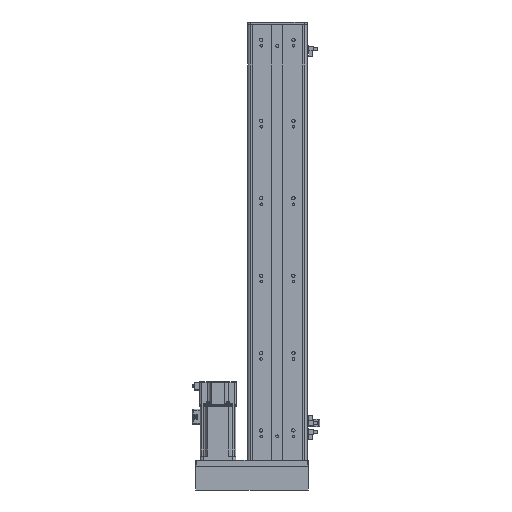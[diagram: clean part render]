
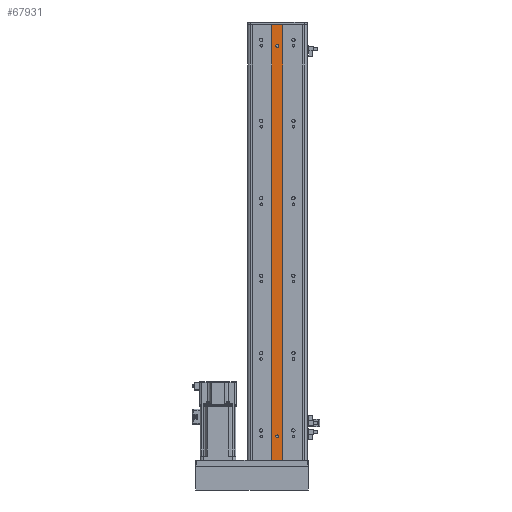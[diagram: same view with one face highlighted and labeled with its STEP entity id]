
A CAD part, front view. The second image highlights one B-rep face of the part: STEP entity #67931.
In plain terms, the highlighted planar face has unit normal (0, -1, 0).
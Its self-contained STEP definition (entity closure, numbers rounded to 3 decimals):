
#29 = EDGE_CURVE ( 'NONE', #30890, #7615, #59088, .T. ) ;
#110 = FACE_BOUND ( 'NONE', #10983, .T. ) ;
#664 = DIRECTION ( 'NONE',  ( 0., 0., 1. ) ) ;
#1103 = CIRCLE ( 'NONE', #21791, 2.5 ) ;
#1115 = EDGE_CURVE ( 'NONE', #44304, #39621, #1460, .T. ) ;
#1460 = CIRCLE ( 'NONE', #56059, 2.5 ) ;
#1490 = CARTESIAN_POINT ( 'NONE',  ( 2.5, 1.309, 826.5 ) ) ;
#1580 = DIRECTION ( 'NONE',  ( -1., 0., 0. ) ) ;
#3102 = LINE ( 'NONE', #18892, #58257 ) ;
#3864 = EDGE_CURVE ( 'NONE', #12221, #28727, #4026, .T. ) ;
#4026 = LINE ( 'NONE', #7603, #4841 ) ;
#4841 = VECTOR ( 'NONE', #1580, 1000. ) ;
#5799 = EDGE_CURVE ( 'NONE', #39621, #30890, #25128, .T. ) ;
#5824 = DIRECTION ( 'NONE',  ( 0., 0., -1. ) ) ;
#6717 = DIRECTION ( 'NONE',  ( 0., 0., 1. ) ) ;
#7104 = CARTESIAN_POINT ( 'NONE',  ( 2.5, 1.309, 170. ) ) ;
#7603 = CARTESIAN_POINT ( 'NONE',  ( 0., 1.309, 130. ) ) ;
#7615 = VERTEX_POINT ( 'NONE', #1490 ) ;
#8108 = DIRECTION ( 'NONE',  ( 0., 1., 0. ) ) ;
#8323 = DIRECTION ( 'NONE',  ( 0., 1., 0. ) ) ;
#9391 = EDGE_CURVE ( 'NONE', #26422, #66133, #13768, .T. ) ;
#10983 = EDGE_LOOP ( 'NONE', ( #55647, #28103, #44668, #24114 ) ) ;
#12221 = VERTEX_POINT ( 'NONE', #46958 ) ;
#12236 = ORIENTED_EDGE ( 'NONE', *, *, #3864, .F. ) ;
#13768 = LINE ( 'NONE', #58982, #27922 ) ;
#14298 = CARTESIAN_POINT ( 'NONE',  ( 0., 1.309, 826.5 ) ) ;
#15575 = DIRECTION ( 'NONE',  ( 1., 0., 0. ) ) ;
#16780 = CARTESIAN_POINT ( 'NONE',  ( 0., 1.309, 170. ) ) ;
#17674 = CARTESIAN_POINT ( 'NONE',  ( -9., 1.309, 130. ) ) ;
#17728 = PLANE ( 'NONE',  #38516 ) ;
#18892 = CARTESIAN_POINT ( 'NONE',  ( -9., 1.309, 861. ) ) ;
#19199 = VERTEX_POINT ( 'NONE', #7104 ) ;
#19676 = DIRECTION ( 'NONE',  ( 0., 1., 0. ) ) ;
#21236 = ORIENTED_EDGE ( 'NONE', *, *, #24861, .T. ) ;
#21388 = ORIENTED_EDGE ( 'NONE', *, *, #9391, .F. ) ;
#21791 = AXIS2_PLACEMENT_3D ( 'NONE', #16780, #37575, #664 ) ;
#21805 = CARTESIAN_POINT ( 'NONE',  ( -9., 1.309, 861. ) ) ;
#22831 = CARTESIAN_POINT ( 'NONE',  ( 0., 1.309, 170. ) ) ;
#23129 = CARTESIAN_POINT ( 'NONE',  ( -2.5, 1.309, 826.5 ) ) ;
#24114 = ORIENTED_EDGE ( 'NONE', *, *, #1115, .T. ) ;
#24861 = EDGE_CURVE ( 'NONE', #26422, #28727, #3102, .T. ) ;
#25128 = LINE ( 'NONE', #30251, #63593 ) ;
#26183 = EDGE_CURVE ( 'NONE', #7615, #44304, #49798, .T. ) ;
#26422 = VERTEX_POINT ( 'NONE', #21805 ) ;
#27922 = VECTOR ( 'NONE', #15575, 1000. ) ;
#28103 = ORIENTED_EDGE ( 'NONE', *, *, #29, .T. ) ;
#28496 = FACE_OUTER_BOUND ( 'NONE', #60801, .T. ) ;
#28727 = VERTEX_POINT ( 'NONE', #17674 ) ;
#28893 = DIRECTION ( 'NONE',  ( 0., 0., 1. ) ) ;
#30251 = CARTESIAN_POINT ( 'NONE',  ( -2.5, 1.309, 861. ) ) ;
#30346 = DIRECTION ( 'NONE',  ( 0., 0., -1. ) ) ;
#30890 = VERTEX_POINT ( 'NONE', #23129 ) ;
#31878 = ORIENTED_EDGE ( 'NONE', *, *, #53376, .F. ) ;
#34282 = CARTESIAN_POINT ( 'NONE',  ( 0., 1.309, 861. ) ) ;
#37575 = DIRECTION ( 'NONE',  ( 0., 1., 0. ) ) ;
#38060 = DIRECTION ( 'NONE',  ( 0., 1., 0. ) ) ;
#38516 = AXIS2_PLACEMENT_3D ( 'NONE', #34282, #8108, #45529 ) ;
#38611 = CARTESIAN_POINT ( 'NONE',  ( -2.5, 1.309, 170. ) ) ;
#39621 = VERTEX_POINT ( 'NONE', #46193 ) ;
#40327 = VERTEX_POINT ( 'NONE', #38611 ) ;
#40603 = CARTESIAN_POINT ( 'NONE',  ( 0., 1.309, 825.5 ) ) ;
#44304 = VERTEX_POINT ( 'NONE', #67675 ) ;
#44376 = AXIS2_PLACEMENT_3D ( 'NONE', #22831, #38060, #6717 ) ;
#44482 = LINE ( 'NONE', #65076, #67808 ) ;
#44668 = ORIENTED_EDGE ( 'NONE', *, *, #26183, .T. ) ;
#45092 = DIRECTION ( 'NONE',  ( 0., 0., -1. ) ) ;
#45529 = DIRECTION ( 'NONE',  ( 0., 0., 1. ) ) ;
#45920 = CARTESIAN_POINT ( 'NONE',  ( 9., 1.309, 861. ) ) ;
#46193 = CARTESIAN_POINT ( 'NONE',  ( -2.5, 1.309, 825.5 ) ) ;
#46421 = ORIENTED_EDGE ( 'NONE', *, *, #65314, .T. ) ;
#46958 = CARTESIAN_POINT ( 'NONE',  ( 9., 1.309, 130. ) ) ;
#48108 = VECTOR ( 'NONE', #5824, 1000. ) ;
#49798 = LINE ( 'NONE', #59325, #48108 ) ;
#51935 = FACE_BOUND ( 'NONE', #69114, .T. ) ;
#53376 = EDGE_CURVE ( 'NONE', #66133, #12221, #44482, .T. ) ;
#55647 = ORIENTED_EDGE ( 'NONE', *, *, #5799, .T. ) ;
#56059 = AXIS2_PLACEMENT_3D ( 'NONE', #40603, #8323, #28893 ) ;
#56245 = DIRECTION ( 'NONE',  ( 0., 0., 1. ) ) ;
#57017 = DIRECTION ( 'NONE',  ( 0., 0., 1. ) ) ;
#58257 = VECTOR ( 'NONE', #45092, 1000. ) ;
#58982 = CARTESIAN_POINT ( 'NONE',  ( -9., 1.309, 861. ) ) ;
#59088 = CIRCLE ( 'NONE', #60029, 2.5 ) ;
#59325 = CARTESIAN_POINT ( 'NONE',  ( 2.5, 1.309, 861. ) ) ;
#60029 = AXIS2_PLACEMENT_3D ( 'NONE', #14298, #19676, #57017 ) ;
#60801 = EDGE_LOOP ( 'NONE', ( #12236, #31878, #21388, #21236 ) ) ;
#61704 = ORIENTED_EDGE ( 'NONE', *, *, #67905, .T. ) ;
#62754 = CIRCLE ( 'NONE', #44376, 2.5 ) ;
#63593 = VECTOR ( 'NONE', #56245, 1000. ) ;
#65076 = CARTESIAN_POINT ( 'NONE',  ( 9., 1.309, 861. ) ) ;
#65314 = EDGE_CURVE ( 'NONE', #40327, #19199, #1103, .T. ) ;
#66133 = VERTEX_POINT ( 'NONE', #45920 ) ;
#67675 = CARTESIAN_POINT ( 'NONE',  ( 2.5, 1.309, 825.5 ) ) ;
#67808 = VECTOR ( 'NONE', #30346, 1000. ) ;
#67905 = EDGE_CURVE ( 'NONE', #19199, #40327, #62754, .T. ) ;
#67931 = ADVANCED_FACE ( 'NONE', ( #110, #51935, #28496 ), #17728, .F. ) ;
#69114 = EDGE_LOOP ( 'NONE', ( #61704, #46421 ) ) ;
